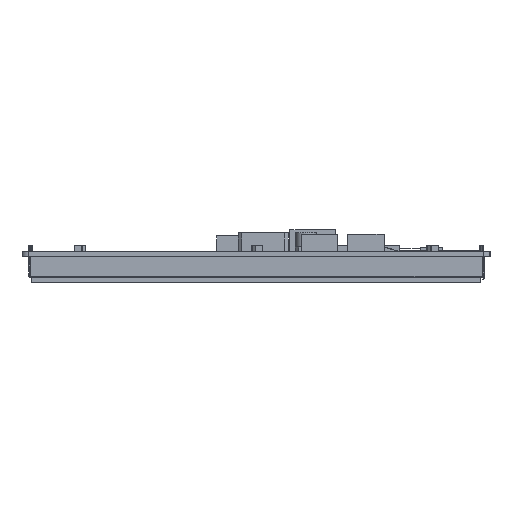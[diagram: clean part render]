
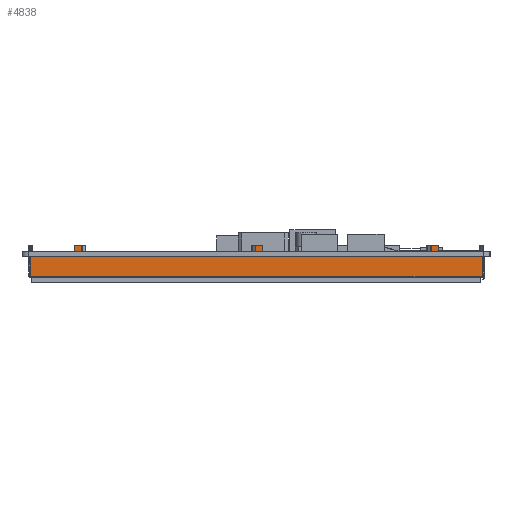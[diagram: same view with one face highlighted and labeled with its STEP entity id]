
A CAD part, left-side view. The second image highlights one B-rep face of the part: STEP entity #4838.
In plain terms, the highlighted planar face has unit normal (-1, 0, 0).
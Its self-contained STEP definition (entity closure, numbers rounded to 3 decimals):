
#4838=ADVANCED_FACE('',(#8032),#6397,.T.);
#6397=PLANE('',#38503);
#8032=FACE_OUTER_BOUND('',#9809,.T.);
#9809=EDGE_LOOP('',(#18257,#18258,#18259,#18260,#18261,#18262,#18263,#18264,
#18265,#18266,#18267,#18268,#18269,#18270,#18271,#18272,#18273,#18274,#18275,
#18276,#18277,#18278));
#18257=ORIENTED_EDGE('',*,*,#27206,.F.);
#18258=ORIENTED_EDGE('',*,*,#27207,.T.);
#18259=ORIENTED_EDGE('',*,*,#27208,.T.);
#18260=ORIENTED_EDGE('',*,*,#27209,.F.);
#18261=ORIENTED_EDGE('',*,*,#27210,.F.);
#18262=ORIENTED_EDGE('',*,*,#27211,.F.);
#18263=ORIENTED_EDGE('',*,*,#27212,.T.);
#18264=ORIENTED_EDGE('',*,*,#27213,.T.);
#18265=ORIENTED_EDGE('',*,*,#27214,.T.);
#18266=ORIENTED_EDGE('',*,*,#27203,.F.);
#18267=ORIENTED_EDGE('',*,*,#27215,.F.);
#18268=ORIENTED_EDGE('',*,*,#27216,.F.);
#18269=ORIENTED_EDGE('',*,*,#27217,.T.);
#18270=ORIENTED_EDGE('',*,*,#27218,.T.);
#18271=ORIENTED_EDGE('',*,*,#27219,.T.);
#18272=ORIENTED_EDGE('',*,*,#27199,.F.);
#18273=ORIENTED_EDGE('',*,*,#27220,.F.);
#18274=ORIENTED_EDGE('',*,*,#27221,.T.);
#18275=ORIENTED_EDGE('',*,*,#27222,.F.);
#18276=ORIENTED_EDGE('',*,*,#27223,.F.);
#18277=ORIENTED_EDGE('',*,*,#27224,.T.);
#18278=ORIENTED_EDGE('',*,*,#27197,.F.);
#22582=VERTEX_POINT('',#56228);
#22584=VERTEX_POINT('',#56232);
#22585=VERTEX_POINT('',#56236);
#22587=VERTEX_POINT('',#56239);
#22589=VERTEX_POINT('',#56245);
#22591=VERTEX_POINT('',#56248);
#22593=VERTEX_POINT('',#56254);
#22594=VERTEX_POINT('',#56256);
#22595=VERTEX_POINT('',#56258);
#22596=VERTEX_POINT('',#56260);
#22597=VERTEX_POINT('',#56262);
#22598=VERTEX_POINT('',#56264);
#22599=VERTEX_POINT('',#56266);
#22600=VERTEX_POINT('',#56268);
#22601=VERTEX_POINT('',#56271);
#22602=VERTEX_POINT('',#56273);
#22603=VERTEX_POINT('',#56275);
#22604=VERTEX_POINT('',#56277);
#22605=VERTEX_POINT('',#56280);
#22606=VERTEX_POINT('',#56282);
#22607=VERTEX_POINT('',#56284);
#22608=VERTEX_POINT('',#56286);
#27197=EDGE_CURVE('',#22584,#22582,#31744,.T.);
#27199=EDGE_CURVE('',#22585,#22587,#31746,.T.);
#27203=EDGE_CURVE('',#22589,#22591,#31750,.T.);
#27206=EDGE_CURVE('',#22593,#22584,#31753,.T.);
#27207=EDGE_CURVE('',#22593,#22594,#31754,.T.);
#27208=EDGE_CURVE('',#22594,#22595,#31755,.T.);
#27209=EDGE_CURVE('',#22596,#22595,#31756,.T.);
#27210=EDGE_CURVE('',#22597,#22596,#31757,.T.);
#27211=EDGE_CURVE('',#22598,#22597,#31758,.T.);
#27212=EDGE_CURVE('',#22598,#22599,#31759,.T.);
#27213=EDGE_CURVE('',#22599,#22600,#31760,.T.);
#27214=EDGE_CURVE('',#22600,#22591,#31761,.T.);
#27215=EDGE_CURVE('',#22601,#22589,#31762,.T.);
#27216=EDGE_CURVE('',#22602,#22601,#31763,.T.);
#27217=EDGE_CURVE('',#22602,#22603,#31764,.T.);
#27218=EDGE_CURVE('',#22603,#22604,#31765,.T.);
#27219=EDGE_CURVE('',#22604,#22587,#31766,.T.);
#27220=EDGE_CURVE('',#22605,#22585,#31767,.T.);
#27221=EDGE_CURVE('',#22605,#22606,#31768,.T.);
#27222=EDGE_CURVE('',#22607,#22606,#31769,.T.);
#27223=EDGE_CURVE('',#22608,#22607,#31770,.T.);
#27224=EDGE_CURVE('',#22608,#22582,#31771,.T.);
#31744=LINE('',#56233,#36131);
#31746=LINE('',#56238,#36133);
#31750=LINE('',#56247,#36137);
#31753=LINE('',#56253,#36140);
#31754=LINE('',#56255,#36141);
#31755=LINE('',#56257,#36142);
#31756=LINE('',#56259,#36143);
#31757=LINE('',#56261,#36144);
#31758=LINE('',#56263,#36145);
#31759=LINE('',#56265,#36146);
#31760=LINE('',#56267,#36147);
#31761=LINE('',#56269,#36148);
#31762=LINE('',#56270,#36149);
#31763=LINE('',#56272,#36150);
#31764=LINE('',#56274,#36151);
#31765=LINE('',#56276,#36152);
#31766=LINE('',#56278,#36153);
#31767=LINE('',#56279,#36154);
#31768=LINE('',#56281,#36155);
#31769=LINE('',#56283,#36156);
#31770=LINE('',#56285,#36157);
#31771=LINE('',#56287,#36158);
#36131=VECTOR('',#46088,1.);
#36133=VECTOR('',#46092,1.);
#36137=VECTOR('',#46098,1.);
#36140=VECTOR('',#46103,1.);
#36141=VECTOR('',#46104,1.);
#36142=VECTOR('',#46105,1.);
#36143=VECTOR('',#46106,1.);
#36144=VECTOR('',#46107,1.);
#36145=VECTOR('',#46108,1.);
#36146=VECTOR('',#46109,1.);
#36147=VECTOR('',#46110,1.);
#36148=VECTOR('',#46111,1.);
#36149=VECTOR('',#46112,1.);
#36150=VECTOR('',#46113,1.);
#36151=VECTOR('',#46114,1.);
#36152=VECTOR('',#46115,1.);
#36153=VECTOR('',#46116,1.);
#36154=VECTOR('',#46117,1.);
#36155=VECTOR('',#46118,1.);
#36156=VECTOR('',#46119,1.);
#36157=VECTOR('',#46120,1.);
#36158=VECTOR('',#46121,1.);
#38503=AXIS2_PLACEMENT_3D('',#56288,#46122,#46123);
#46088=DIRECTION('',(0.,-1.,0.));
#46092=DIRECTION('',(0.,-1.,0.));
#46098=DIRECTION('',(0.,-1.,0.));
#46103=DIRECTION('',(0.,0.,1.));
#46104=DIRECTION('',(0.,-1.,0.));
#46105=DIRECTION('',(0.,0.,1.));
#46106=DIRECTION('',(0.,-1.,0.));
#46107=DIRECTION('',(0.,0.,-1.));
#46108=DIRECTION('',(0.,-1.,0.));
#46109=DIRECTION('',(0.,0.,-1.));
#46110=DIRECTION('',(0.,-1.,0.));
#46111=DIRECTION('',(0.,0.,-1.));
#46112=DIRECTION('',(0.,0.,-1.));
#46113=DIRECTION('',(0.,-1.,0.));
#46114=DIRECTION('',(0.,0.,-1.));
#46115=DIRECTION('',(0.,-1.,0.));
#46116=DIRECTION('',(0.,0.,-1.));
#46117=DIRECTION('',(0.,0.,-1.));
#46118=DIRECTION('',(0.,-1.,0.));
#46119=DIRECTION('',(0.,0.,-1.));
#46120=DIRECTION('',(0.,-1.,0.));
#46121=DIRECTION('',(0.,0.,-1.));
#46122=DIRECTION('',(-1.,0.,0.));
#46123=DIRECTION('',(0.,1.,0.));
#56228=CARTESIAN_POINT('',(1013.555,86.184,-1.6));
#56232=CARTESIAN_POINT('',(1013.555,100.243,-1.6));
#56233=CARTESIAN_POINT('',(1013.555,100.243,-1.6));
#56236=CARTESIAN_POINT('',(1013.555,84.184,-1.6));
#56238=CARTESIAN_POINT('',(1013.555,100.243,-1.6));
#56239=CARTESIAN_POINT('',(1013.555,28.708,-1.6));
#56245=CARTESIAN_POINT('',(1013.555,26.708,-1.6));
#56247=CARTESIAN_POINT('',(1013.555,100.243,-1.6));
#56248=CARTESIAN_POINT('',(1013.555,-26.802,-1.6));
#56253=CARTESIAN_POINT('',(1013.555,100.243,-8.1));
#56254=CARTESIAN_POINT('',(1013.555,100.243,-7.7));
#56255=CARTESIAN_POINT('',(1013.555,-42.757,-7.7));
#56256=CARTESIAN_POINT('',(1013.555,-42.757,-7.7));
#56257=CARTESIAN_POINT('',(1013.555,-42.757,-8.1));
#56258=CARTESIAN_POINT('',(1013.555,-42.757,-1.6));
#56259=CARTESIAN_POINT('',(1013.555,100.243,-1.6));
#56260=CARTESIAN_POINT('',(1013.555,-28.802,-1.6));
#56261=CARTESIAN_POINT('',(1013.555,-28.802,2.));
#56262=CARTESIAN_POINT('',(1013.555,-28.802,2.));
#56263=CARTESIAN_POINT('',(1013.555,-26.575,2.));
#56264=CARTESIAN_POINT('',(1013.555,-26.575,2.));
#56265=CARTESIAN_POINT('',(1013.555,-26.575,2.));
#56266=CARTESIAN_POINT('',(1013.555,-26.575,0.));
#56267=CARTESIAN_POINT('',(1013.555,-26.575,0.));
#56268=CARTESIAN_POINT('',(1013.555,-26.802,0.));
#56269=CARTESIAN_POINT('',(1013.555,-26.802,0.));
#56270=CARTESIAN_POINT('',(1013.555,26.708,0.));
#56271=CARTESIAN_POINT('',(1013.555,26.708,2.));
#56272=CARTESIAN_POINT('',(1013.555,28.935,2.));
#56273=CARTESIAN_POINT('',(1013.555,28.935,2.));
#56274=CARTESIAN_POINT('',(1013.555,28.935,2.));
#56275=CARTESIAN_POINT('',(1013.555,28.935,0.));
#56276=CARTESIAN_POINT('',(1013.555,28.935,0.));
#56277=CARTESIAN_POINT('',(1013.555,28.708,0.));
#56278=CARTESIAN_POINT('',(1013.555,28.708,0.));
#56279=CARTESIAN_POINT('',(1013.555,84.184,0.));
#56280=CARTESIAN_POINT('',(1013.555,84.184,0.));
#56281=CARTESIAN_POINT('',(1013.555,86.184,0.));
#56282=CARTESIAN_POINT('',(1013.555,83.957,0.));
#56283=CARTESIAN_POINT('',(1013.555,83.957,2.));
#56284=CARTESIAN_POINT('',(1013.555,83.957,2.));
#56285=CARTESIAN_POINT('',(1013.555,86.184,2.));
#56286=CARTESIAN_POINT('',(1013.555,86.184,2.));
#56287=CARTESIAN_POINT('',(1013.555,86.184,0.));
#56288=CARTESIAN_POINT('',(1013.555,100.243,-8.1));
